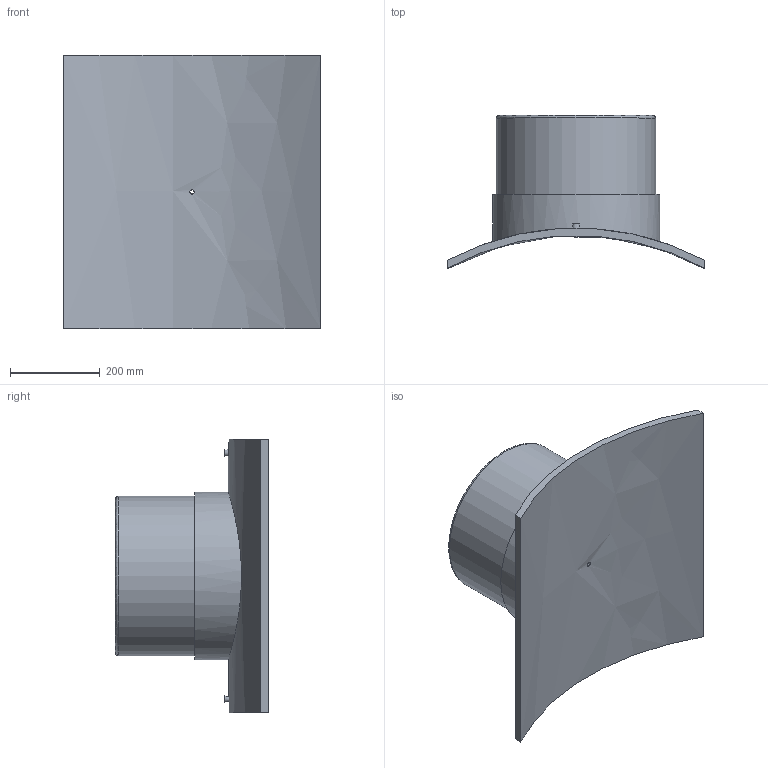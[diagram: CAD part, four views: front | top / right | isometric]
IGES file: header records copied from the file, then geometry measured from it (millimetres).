
Global section: file name: 4958031200355T.ipt; native system: Autodesk Inventor 2019; preprocessor: unknown; author: KIM; date: 20210225.095019; units: millimetre
Bounding box: 575 x 341.37 x 610 mm (x, y, z)
Volume: 16107045.4 mm3; surface area: 1313075.2 mm2
Topology: 2 solids, 2 shells, 29 faces, 54 edges, 38 vertices
Faces by surface type: plane 13, revolution 7, cylinder 7, cone 2
Full cylindrical faces by diameter (mm): 4 x2, 16 x1, 355 x1, 372.75 x1
